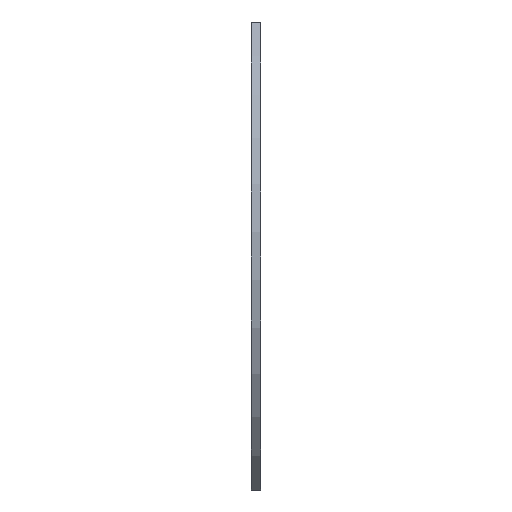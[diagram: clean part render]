
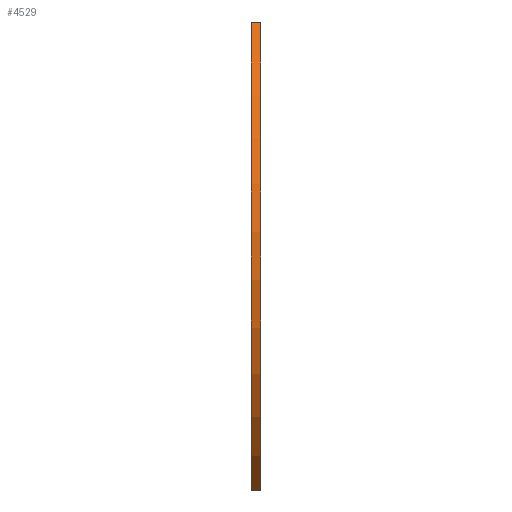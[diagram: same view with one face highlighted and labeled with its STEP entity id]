
A CAD part, left-side view. The second image highlights one B-rep face of the part: STEP entity #4529.
In plain terms, the highlighted cylindrical face has radius 100 mm (diameter 200 mm), a partial arc.
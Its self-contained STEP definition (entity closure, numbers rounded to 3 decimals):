
#190 = VERTEX_POINT('',#191);
#191 = CARTESIAN_POINT('',(-63.804,0.,-77.));
#197 = EDGE_CURVE('',#198,#190,#200,.T.);
#198 = VERTEX_POINT('',#199);
#199 = CARTESIAN_POINT('',(-63.804,0.,77.));
#200 = CIRCLE('',#201,100.);
#201 = AXIS2_PLACEMENT_3D('',#202,#203,#204);
#202 = CARTESIAN_POINT('',(0.,0.,0.));
#203 = DIRECTION('',(0.,-1.,0.));
#204 = DIRECTION('',(1.,0.,0.));
#1540 = VERTEX_POINT('',#1541);
#1541 = CARTESIAN_POINT('',(-63.804,-3.,-77.));
#1547 = EDGE_CURVE('',#1548,#1540,#1550,.T.);
#1548 = VERTEX_POINT('',#1549);
#1549 = CARTESIAN_POINT('',(-63.804,-3.,77.));
#1550 = CIRCLE('',#1551,100.);
#1551 = AXIS2_PLACEMENT_3D('',#1552,#1553,#1554);
#1552 = CARTESIAN_POINT('',(0.,-3.,0.));
#1553 = DIRECTION('',(0.,-1.,0.));
#1554 = DIRECTION('',(1.,0.,0.));
#4499 = EDGE_CURVE('',#190,#1540,#4500,.T.);
#4500 = LINE('',#4501,#4502);
#4501 = CARTESIAN_POINT('',(-63.804,0.,-77.));
#4502 = VECTOR('',#4503,1.);
#4503 = DIRECTION('',(0.,-1.,0.));
#4529 = ADVANCED_FACE('',(#4530),#4541,.T.);
#4530 = FACE_BOUND('',#4531,.F.);
#4531 = EDGE_LOOP('',(#4532,#4538,#4539,#4540));
#4532 = ORIENTED_EDGE('',*,*,#4533,.T.);
#4533 = EDGE_CURVE('',#198,#1548,#4534,.T.);
#4534 = LINE('',#4535,#4536);
#4535 = CARTESIAN_POINT('',(-63.804,0.,77.));
#4536 = VECTOR('',#4537,1.);
#4537 = DIRECTION('',(0.,-1.,0.));
#4538 = ORIENTED_EDGE('',*,*,#1547,.T.);
#4539 = ORIENTED_EDGE('',*,*,#4499,.F.);
#4540 = ORIENTED_EDGE('',*,*,#197,.F.);
#4541 = CYLINDRICAL_SURFACE('',#4542,100.);
#4542 = AXIS2_PLACEMENT_3D('',#4543,#4544,#4545);
#4543 = CARTESIAN_POINT('',(0.,0.,0.));
#4544 = DIRECTION('',(0.,1.,0.));
#4545 = DIRECTION('',(1.,0.,0.));
